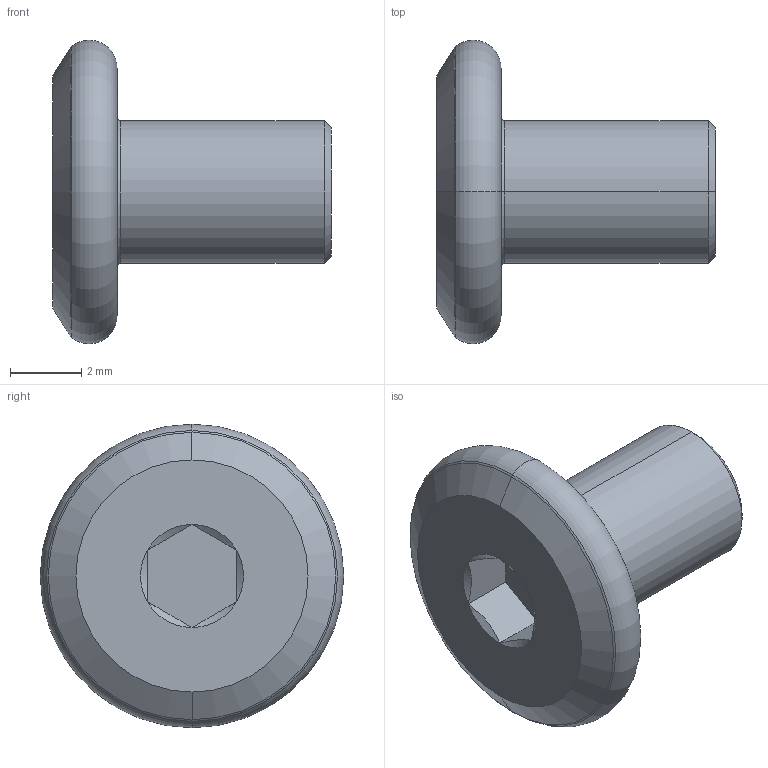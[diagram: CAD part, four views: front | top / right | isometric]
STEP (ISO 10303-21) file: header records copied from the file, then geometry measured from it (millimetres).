
FILE_DESCRIPTION (( 'STEP AP203' ), '1' );
FILE_NAME ('LGD-304D-M4x6.STEP', '2026-08-13T04:36:38', ( '' ), ( '' ), 'SwSTEP 2.0', 'SolidWorks 2020', '' );
FILE_SCHEMA (( 'CONFIG_CONTROL_DESIGN' ));
Length unit declared in the file: millimetre
Products named in the file (1): LGD-304D-M4x6
Bounding box: 7.8 x 8.5 x 8.5 mm (x, y, z)
Volume: 157.6 mm3; surface area: 224 mm2
Topology: 1 solids, 1 shells, 28 faces, 52 edges, 28 vertices
Faces by surface type: cone 10, plane 10, torus 6, cylinder 2
Entity records: 791 total; most frequent: CARTESIAN_POINT 151, DIRECTION 132, ORIENTED_EDGE 104, AXIS2_PLACEMENT_3D 57, EDGE_CURVE 52, EDGE_LOOP 30, ADVANCED_FACE 28, FACE_OUTER_BOUND 28
